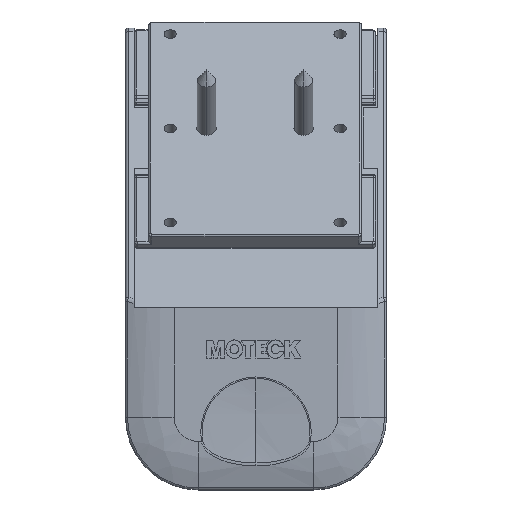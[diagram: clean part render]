
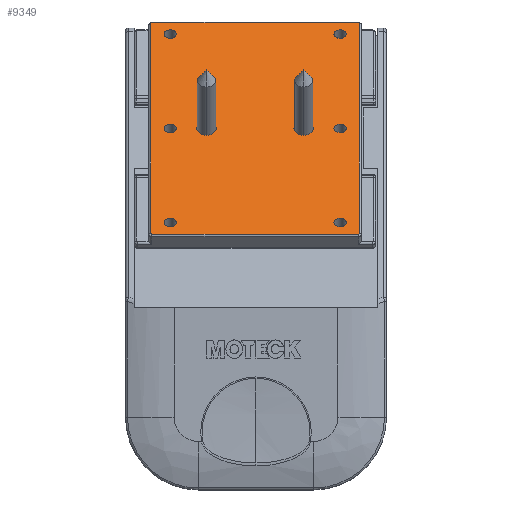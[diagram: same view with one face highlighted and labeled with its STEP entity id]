
A CAD part, top view. The second image highlights one B-rep face of the part: STEP entity #9349.
In plain terms, the highlighted planar face has unit normal (0, 0.707, 0.707).
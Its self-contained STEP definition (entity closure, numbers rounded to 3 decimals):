
#98=CARTESIAN_POINT('',(82.,46.952,-46.244));
#99=DIRECTION('',(0.,-0.707,-0.707));
#100=DIRECTION('',(0.,0.707,-0.707));
#101=AXIS2_PLACEMENT_3D('',#98,#99,#100);
#103=DIRECTION('',(0.,-0.707,0.707));
#104=VECTOR('',#103,49.);
#105=CARTESIAN_POINT('',(82.2,46.952,-46.244));
#106=LINE('',#105,#104);
#107=CARTESIAN_POINT('',(82.,12.304,-11.595));
#108=DIRECTION('',(0.,-0.707,-0.707));
#109=DIRECTION('',(1.,0.,0.));
#110=AXIS2_PLACEMENT_3D('',#107,#108,#109);
#112=DIRECTION('',(-1.,0.,0.));
#113=VECTOR('',#112,34.);
#114=CARTESIAN_POINT('',(82.,12.162,-11.454));
#115=LINE('',#114,#113);
#116=CARTESIAN_POINT('',(48.,12.304,-11.595));
#117=DIRECTION('',(0.,-0.707,-0.707));
#118=DIRECTION('',(0.,-0.707,0.707));
#119=AXIS2_PLACEMENT_3D('',#116,#117,#118);
#121=DIRECTION('',(0.,0.707,-0.707));
#122=VECTOR('',#121,49.);
#123=CARTESIAN_POINT('',(47.8,12.304,-11.595));
#124=LINE('',#123,#122);
#125=CARTESIAN_POINT('',(48.,46.952,-46.244));
#126=DIRECTION('',(0.,-0.707,-0.707));
#127=DIRECTION('',(-1.,0.,0.));
#128=AXIS2_PLACEMENT_3D('',#125,#126,#127);
#130=DIRECTION('',(1.,0.,0.));
#131=VECTOR('',#130,34.);
#132=CARTESIAN_POINT('',(48.,47.093,-46.385));
#133=LINE('',#132,#131);
#134=CARTESIAN_POINT('',(57.,29.628,-28.919));
#135=DIRECTION('',(0.,0.707,0.707));
#136=DIRECTION('',(-1.,0.,0.));
#137=AXIS2_PLACEMENT_3D('',#134,#135,#136);
#139=CARTESIAN_POINT('',(57.,29.628,-28.919));
#140=DIRECTION('',(0.,0.707,0.707));
#141=DIRECTION('',(1.,0.,0.));
#142=AXIS2_PLACEMENT_3D('',#139,#140,#141);
#144=CARTESIAN_POINT('',(73.,29.628,-28.919));
#145=DIRECTION('',(0.,0.707,0.707));
#146=DIRECTION('',(-1.,0.,0.));
#147=AXIS2_PLACEMENT_3D('',#144,#145,#146);
#149=CARTESIAN_POINT('',(73.,29.628,-28.919));
#150=DIRECTION('',(0.,0.707,0.707));
#151=DIRECTION('',(1.,0.,0.));
#152=AXIS2_PLACEMENT_3D('',#149,#150,#151);
#154=CARTESIAN_POINT('',(79.,14.071,-13.363));
#155=DIRECTION('',(0.,0.707,0.707));
#156=DIRECTION('',(-1.,0.,0.));
#157=AXIS2_PLACEMENT_3D('',#154,#155,#156);
#159=CARTESIAN_POINT('',(79.,14.071,-13.363));
#160=DIRECTION('',(0.,0.707,0.707));
#161=DIRECTION('',(1.,0.,0.));
#162=AXIS2_PLACEMENT_3D('',#159,#160,#161);
#164=CARTESIAN_POINT('',(79.,45.184,-44.476));
#165=DIRECTION('',(0.,0.707,0.707));
#166=DIRECTION('',(-1.,0.,0.));
#167=AXIS2_PLACEMENT_3D('',#164,#165,#166);
#169=CARTESIAN_POINT('',(79.,45.184,-44.476));
#170=DIRECTION('',(0.,0.707,0.707));
#171=DIRECTION('',(1.,0.,0.));
#172=AXIS2_PLACEMENT_3D('',#169,#170,#171);
#174=CARTESIAN_POINT('',(51.,14.071,-13.363));
#175=DIRECTION('',(0.,0.707,0.707));
#176=DIRECTION('',(-1.,0.,0.));
#177=AXIS2_PLACEMENT_3D('',#174,#175,#176);
#179=CARTESIAN_POINT('',(51.,14.071,-13.363));
#180=DIRECTION('',(0.,0.707,0.707));
#181=DIRECTION('',(1.,0.,0.));
#182=AXIS2_PLACEMENT_3D('',#179,#180,#181);
#184=CARTESIAN_POINT('',(51.,45.184,-44.476));
#185=DIRECTION('',(0.,0.707,0.707));
#186=DIRECTION('',(-1.,0.,0.));
#187=AXIS2_PLACEMENT_3D('',#184,#185,#186);
#189=CARTESIAN_POINT('',(51.,45.184,-44.476));
#190=DIRECTION('',(0.,0.707,0.707));
#191=DIRECTION('',(1.,0.,0.));
#192=AXIS2_PLACEMENT_3D('',#189,#190,#191);
#194=CARTESIAN_POINT('',(79.,29.628,-28.919));
#195=DIRECTION('',(0.,0.707,0.707));
#196=DIRECTION('',(-1.,0.,0.));
#197=AXIS2_PLACEMENT_3D('',#194,#195,#196);
#199=CARTESIAN_POINT('',(79.,29.628,-28.919));
#200=DIRECTION('',(0.,0.707,0.707));
#201=DIRECTION('',(1.,0.,0.));
#202=AXIS2_PLACEMENT_3D('',#199,#200,#201);
#204=CARTESIAN_POINT('',(51.,29.628,-28.919));
#205=DIRECTION('',(0.,0.707,0.707));
#206=DIRECTION('',(-1.,0.,0.));
#207=AXIS2_PLACEMENT_3D('',#204,#205,#206);
#209=CARTESIAN_POINT('',(51.,29.628,-28.919));
#210=DIRECTION('',(0.,0.707,0.707));
#211=DIRECTION('',(1.,0.,0.));
#212=AXIS2_PLACEMENT_3D('',#209,#210,#211);
#7925=CARTESIAN_POINT('',(47.8,12.304,-11.595));
#7926=VERTEX_POINT('',#7925);
#7927=CARTESIAN_POINT('',(47.8,46.952,-46.244));
#7928=VERTEX_POINT('',#7927);
#7931=CARTESIAN_POINT('',(48.,47.093,-46.385));
#7932=VERTEX_POINT('',#7931);
#7933=CARTESIAN_POINT('',(82.,47.093,-46.385));
#7934=VERTEX_POINT('',#7933);
#7937=CARTESIAN_POINT('',(82.2,46.952,-46.244));
#7938=VERTEX_POINT('',#7937);
#7939=CARTESIAN_POINT('',(82.2,12.304,-11.595));
#7940=VERTEX_POINT('',#7939);
#7946=CARTESIAN_POINT('',(48.,12.162,-11.454));
#7947=VERTEX_POINT('',#7946);
#7948=CARTESIAN_POINT('',(82.,12.162,-11.454));
#7949=VERTEX_POINT('',#7948);
#7950=CARTESIAN_POINT('',(55.4,29.628,-28.919));
#7951=CARTESIAN_POINT('',(58.6,29.628,-28.919));
#7952=VERTEX_POINT('',#7950);
#7953=VERTEX_POINT('',#7951);
#7954=CARTESIAN_POINT('',(71.4,29.628,-28.919));
#7955=CARTESIAN_POINT('',(74.6,29.628,-28.919));
#7956=VERTEX_POINT('',#7954);
#7957=VERTEX_POINT('',#7955);
#7958=CARTESIAN_POINT('',(78.,14.071,-13.363));
#7959=CARTESIAN_POINT('',(80.,14.071,-13.363));
#7960=VERTEX_POINT('',#7958);
#7961=VERTEX_POINT('',#7959);
#7962=CARTESIAN_POINT('',(78.,45.184,-44.476));
#7963=CARTESIAN_POINT('',(80.,45.184,-44.476));
#7964=VERTEX_POINT('',#7962);
#7965=VERTEX_POINT('',#7963);
#7966=CARTESIAN_POINT('',(50.,14.071,-13.363));
#7967=CARTESIAN_POINT('',(52.,14.071,-13.363));
#7968=VERTEX_POINT('',#7966);
#7969=VERTEX_POINT('',#7967);
#7970=CARTESIAN_POINT('',(50.,45.184,-44.476));
#7971=CARTESIAN_POINT('',(52.,45.184,-44.476));
#7972=VERTEX_POINT('',#7970);
#7973=VERTEX_POINT('',#7971);
#7974=CARTESIAN_POINT('',(78.,29.628,-28.919));
#7975=CARTESIAN_POINT('',(80.,29.628,-28.919));
#7976=VERTEX_POINT('',#7974);
#7977=VERTEX_POINT('',#7975);
#7978=CARTESIAN_POINT('',(50.,29.628,-28.919));
#7979=CARTESIAN_POINT('',(52.,29.628,-28.919));
#7980=VERTEX_POINT('',#7978);
#7981=VERTEX_POINT('',#7979);
#9280=CARTESIAN_POINT('',(65.,29.628,-28.919));
#9281=DIRECTION('',(0.,0.707,0.707));
#9282=DIRECTION('',(1.,0.,0.));
#9283=AXIS2_PLACEMENT_3D('',#9280,#9281,#9282);
#9284=PLANE('',#9283);
#9286=ORIENTED_EDGE('',*,*,#9285,.T.);
#9288=ORIENTED_EDGE('',*,*,#9287,.T.);
#9290=ORIENTED_EDGE('',*,*,#9289,.T.);
#9292=ORIENTED_EDGE('',*,*,#9291,.T.);
#9294=ORIENTED_EDGE('',*,*,#9293,.T.);
#9296=ORIENTED_EDGE('',*,*,#9295,.T.);
#9298=ORIENTED_EDGE('',*,*,#9297,.T.);
#9300=ORIENTED_EDGE('',*,*,#9299,.T.);
#9301=EDGE_LOOP('',(#9286,#9288,#9290,#9292,#9294,#9296,#9298,#9300));
#9302=FACE_OUTER_BOUND('',#9301,.F.);
#9304=ORIENTED_EDGE('',*,*,#9303,.T.);
#9306=ORIENTED_EDGE('',*,*,#9305,.T.);
#9307=EDGE_LOOP('',(#9304,#9306));
#9308=FACE_BOUND('',#9307,.F.);
#9309=ORIENTED_EDGE('',*,*,#9260,.T.);
#9310=ORIENTED_EDGE('',*,*,#9274,.T.);
#9311=EDGE_LOOP('',(#9309,#9310));
#9312=FACE_BOUND('',#9311,.F.);
#9314=ORIENTED_EDGE('',*,*,#9313,.T.);
#9316=ORIENTED_EDGE('',*,*,#9315,.T.);
#9317=EDGE_LOOP('',(#9314,#9316));
#9318=FACE_BOUND('',#9317,.F.);
#9320=ORIENTED_EDGE('',*,*,#9319,.T.);
#9322=ORIENTED_EDGE('',*,*,#9321,.T.);
#9323=EDGE_LOOP('',(#9320,#9322));
#9324=FACE_BOUND('',#9323,.F.);
#9326=ORIENTED_EDGE('',*,*,#9325,.T.);
#9328=ORIENTED_EDGE('',*,*,#9327,.T.);
#9329=EDGE_LOOP('',(#9326,#9328));
#9330=FACE_BOUND('',#9329,.F.);
#9332=ORIENTED_EDGE('',*,*,#9331,.T.);
#9334=ORIENTED_EDGE('',*,*,#9333,.T.);
#9335=EDGE_LOOP('',(#9332,#9334));
#9336=FACE_BOUND('',#9335,.F.);
#9338=ORIENTED_EDGE('',*,*,#9337,.T.);
#9340=ORIENTED_EDGE('',*,*,#9339,.T.);
#9341=EDGE_LOOP('',(#9338,#9340));
#9342=FACE_BOUND('',#9341,.F.);
#9344=ORIENTED_EDGE('',*,*,#9343,.T.);
#9346=ORIENTED_EDGE('',*,*,#9345,.T.);
#9347=EDGE_LOOP('',(#9344,#9346));
#9348=FACE_BOUND('',#9347,.F.);
#9349=ADVANCED_FACE('',(#9302,#9308,#9312,#9318,#9324,#9330,#9336,#9342,#9348),
#9284,.T.);
#102=CIRCLE('',#101,0.2);
#111=CIRCLE('',#110,0.2);
#120=CIRCLE('',#119,0.2);
#129=CIRCLE('',#128,0.2);
#138=CIRCLE('',#137,1.6);
#143=CIRCLE('',#142,1.6);
#148=CIRCLE('',#147,1.6);
#153=CIRCLE('',#152,1.6);
#158=CIRCLE('',#157,1.);
#163=CIRCLE('',#162,1.);
#168=CIRCLE('',#167,1.);
#173=CIRCLE('',#172,1.);
#178=CIRCLE('',#177,1.);
#183=CIRCLE('',#182,1.);
#188=CIRCLE('',#187,1.);
#193=CIRCLE('',#192,1.);
#198=CIRCLE('',#197,1.);
#203=CIRCLE('',#202,1.);
#208=CIRCLE('',#207,1.);
#213=CIRCLE('',#212,1.);
#9260=EDGE_CURVE('',#7956,#7957,#148,.T.);
#9274=EDGE_CURVE('',#7957,#7956,#153,.T.);
#9285=EDGE_CURVE('',#7934,#7938,#102,.T.);
#9287=EDGE_CURVE('',#7938,#7940,#106,.T.);
#9289=EDGE_CURVE('',#7940,#7949,#111,.T.);
#9291=EDGE_CURVE('',#7949,#7947,#115,.T.);
#9293=EDGE_CURVE('',#7947,#7926,#120,.T.);
#9295=EDGE_CURVE('',#7926,#7928,#124,.T.);
#9297=EDGE_CURVE('',#7928,#7932,#129,.T.);
#9299=EDGE_CURVE('',#7932,#7934,#133,.T.);
#9303=EDGE_CURVE('',#7952,#7953,#138,.T.);
#9305=EDGE_CURVE('',#7953,#7952,#143,.T.);
#9313=EDGE_CURVE('',#7960,#7961,#158,.T.);
#9315=EDGE_CURVE('',#7961,#7960,#163,.T.);
#9319=EDGE_CURVE('',#7964,#7965,#168,.T.);
#9321=EDGE_CURVE('',#7965,#7964,#173,.T.);
#9325=EDGE_CURVE('',#7968,#7969,#178,.T.);
#9327=EDGE_CURVE('',#7969,#7968,#183,.T.);
#9331=EDGE_CURVE('',#7972,#7973,#188,.T.);
#9333=EDGE_CURVE('',#7973,#7972,#193,.T.);
#9337=EDGE_CURVE('',#7976,#7977,#198,.T.);
#9339=EDGE_CURVE('',#7977,#7976,#203,.T.);
#9343=EDGE_CURVE('',#7980,#7981,#208,.T.);
#9345=EDGE_CURVE('',#7981,#7980,#213,.T.);
